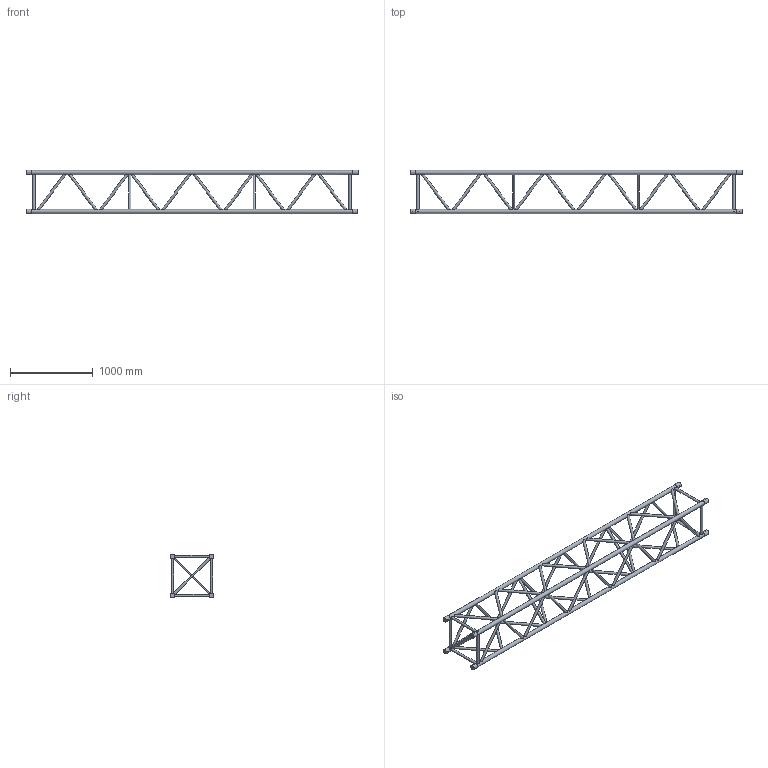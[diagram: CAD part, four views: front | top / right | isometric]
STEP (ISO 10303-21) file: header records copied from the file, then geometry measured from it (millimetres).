
FILE_DESCRIPTION(/* description */ (''),/* implementation_level */ '2;1');
FILE_NAME(/* name */ 'M:\Symbolen_NIEUW\STP\52-er truss\111110117.stp',/* time_stamp */ '2015-04-22T16:26:16+02:00',/* author */ ('Stephan'),/* organization */ (''),/* preprocessor_version */ 'ST-DEVELOPER v15.6',/* originating_system */ 'Autodesk Inventor 2015',/* authorisation */ '');
FILE_SCHEMA (('AUTOMOTIVE_DESIGN { 1 0 10303 214 3 1 1 }'));
Length unit declared in the file: millimetre
Products named in the file (1): 160024058
Bounding box: 4000 x 528.8 x 528.8 mm (x, y, z)
Volume: 27469501.2 mm3; surface area: 5103659.1 mm2
Topology: 5 solids, 8 shells, 280 faces, 761 edges, 493 vertices
Faces by surface type: cylinder 132, plane 108, cone 40
Full cylindrical faces by diameter (mm): 10 x8, 30 x52, 50 x4, 58.8 x8
Entity records: 12995 total; most frequent: CARTESIAN_POINT 7053, ORIENTED_EDGE 1076, DIRECTION 1042, EDGE_CURVE 510, EDGE_LOOP 472, AXIS2_PLACEMENT_3D 455, VERTEX_POINT 370, STYLED_ITEM 253
